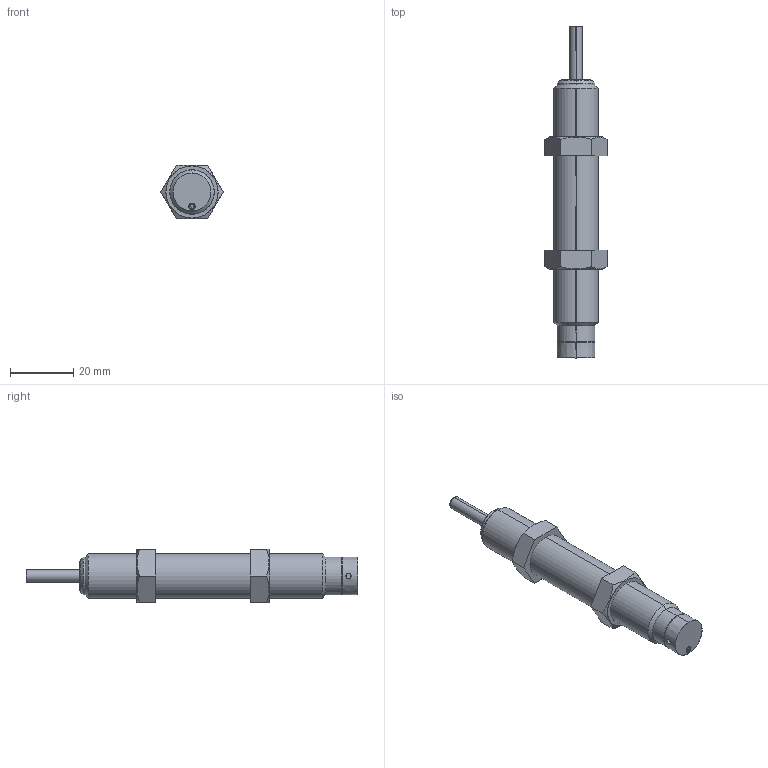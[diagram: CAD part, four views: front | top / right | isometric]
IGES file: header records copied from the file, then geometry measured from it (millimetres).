
Start section: SolidWorks IGES file using analytic representation for surfaces
Bounding box: 19.63 x 105 x 17 mm (x, y, z)
Surface area: 5911.5 mm2 (no closed solid volume)
Topology: 0 solids, 0 shells, 70 faces, 1070 edges, 1070 vertices
Faces by surface type: bspline 38, revolution 32
